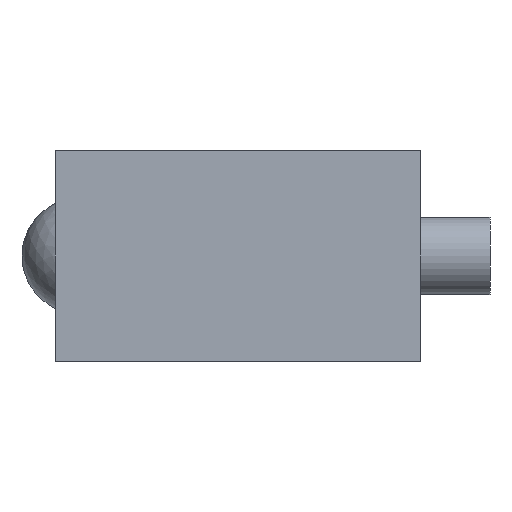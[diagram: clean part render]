
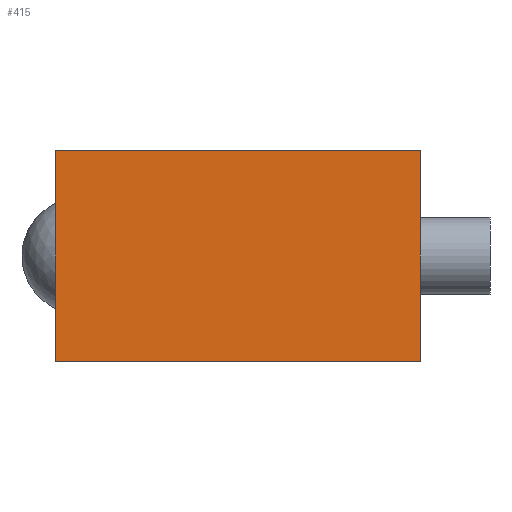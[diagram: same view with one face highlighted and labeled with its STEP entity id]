
A CAD part, left-side view. The second image highlights one B-rep face of the part: STEP entity #415.
In plain terms, the highlighted planar face has unit normal (-1, 0, 0).
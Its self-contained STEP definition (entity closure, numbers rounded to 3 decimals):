
#21=LINE('',#688,#37);
#27=LINE('',#703,#43);
#31=LINE('',#715,#47);
#33=LINE('',#718,#49);
#37=VECTOR('',#582,10.);
#43=VECTOR('',#592,10.);
#47=VECTOR('',#608,10.);
#49=VECTOR('',#612,10.);
#81=PLANE('',#489);
#110=FACE_OUTER_BOUND('',#158,.T.);
#158=EDGE_LOOP('',(#330,#331,#332,#333));
#208=VERTEX_POINT('',#686);
#209=VERTEX_POINT('',#687);
#215=VERTEX_POINT('',#700);
#216=VERTEX_POINT('',#702);
#243=EDGE_CURVE('',#208,#209,#21,.T.);
#250=EDGE_CURVE('',#215,#216,#27,.T.);
#256=EDGE_CURVE('',#216,#208,#31,.T.);
#258=EDGE_CURVE('',#209,#215,#33,.T.);
#330=ORIENTED_EDGE('',*,*,#250,.F.);
#331=ORIENTED_EDGE('',*,*,#258,.F.);
#332=ORIENTED_EDGE('',*,*,#243,.F.);
#333=ORIENTED_EDGE('',*,*,#256,.F.);
#415=ADVANCED_FACE('',(#110),#81,.T.);
#489=AXIS2_PLACEMENT_3D('',#717,#610,#611);
#582=DIRECTION('',(0.,0.,1.));
#592=DIRECTION('',(0.,0.,-1.));
#608=DIRECTION('',(0.,1.,0.));
#610=DIRECTION('center_axis',(-1.,0.,0.));
#611=DIRECTION('ref_axis',(0.,-1.,0.));
#612=DIRECTION('',(0.,-1.,0.));
#686=CARTESIAN_POINT('',(-240.,18.9,-10.9));
#687=CARTESIAN_POINT('',(-240.,18.9,10.9));
#688=CARTESIAN_POINT('',(-240.,18.9,0.));
#700=CARTESIAN_POINT('',(-240.,-18.9,10.9));
#702=CARTESIAN_POINT('',(-240.,-18.9,-10.9));
#703=CARTESIAN_POINT('',(-240.,-18.9,0.));
#715=CARTESIAN_POINT('',(-240.,18.9,-10.9));
#717=CARTESIAN_POINT('Origin',(-240.,18.9,0.));
#718=CARTESIAN_POINT('',(-240.,18.9,10.9));
